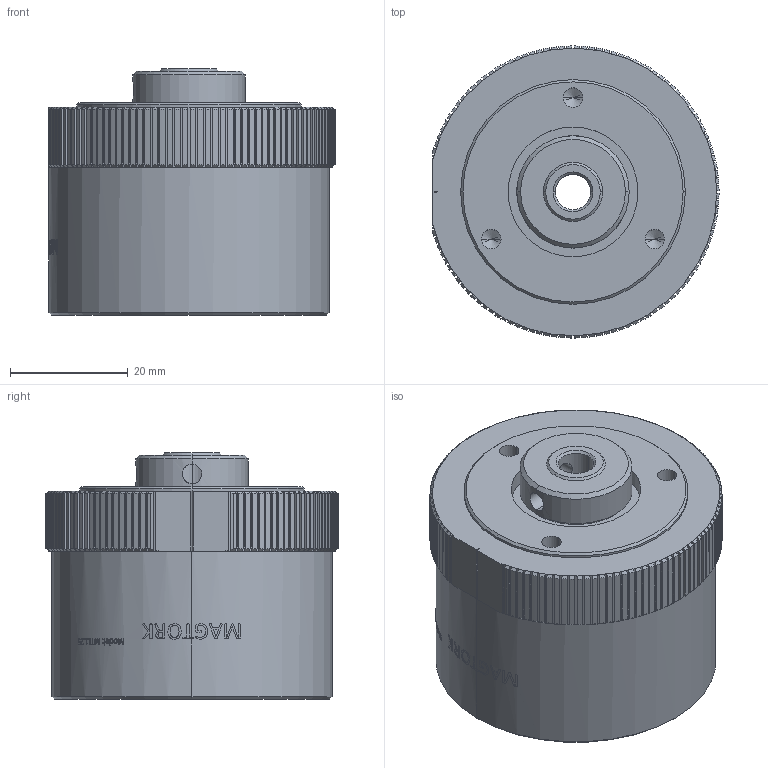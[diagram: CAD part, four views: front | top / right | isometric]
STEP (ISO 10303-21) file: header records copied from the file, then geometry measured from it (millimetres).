
FILE_DESCRIPTION (( 'STEP AP203' ), '1' );
FILE_NAME ('MTL1.25-6mm CUSTOMER SOLID.STEP', '2014-06-20T12:55:45', ( '' ), ( '' ), 'SwSTEP 2.0', 'SolidWorks 2014', '' );
FILE_SCHEMA (( 'CONFIG_CONTROL_DESIGN' ));
Length unit declared in the file: inch
Products named in the file (1): MTL1.25-6mm CUSTOMER SOLID
Bounding box: 48.51 x 49.52 x 41.73 mm (x, y, z)
Volume: 63037.9 mm3; surface area: 12471.4 mm2
Topology: 1 solids, 1 shells, 548 faces, 1796 edges, 1275 vertices
Faces by surface type: plane 350, cylinder 169, cone 29
Entity records: 23262 total; most frequent: CARTESIAN_POINT 8707, ORIENTED_EDGE 3568, DIRECTION 2336, EDGE_CURVE 1784, VERTEX_POINT 1275, AXIS2_PLACEMENT_3D 889, B_SPLINE_CURVE_WITH_KNOTS 886, EDGE_LOOP 591
